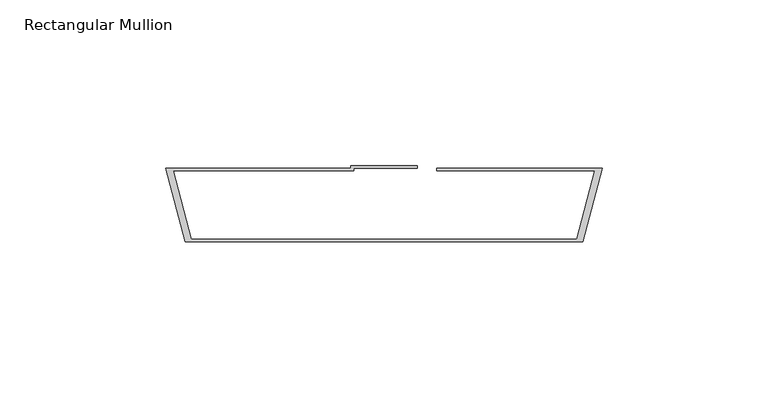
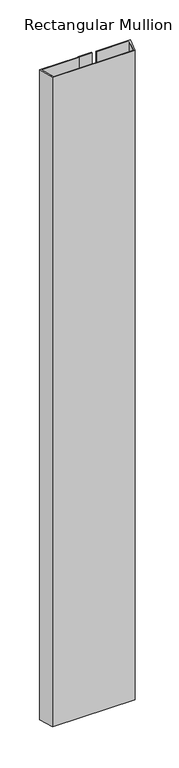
"""IFC4 building model written with IfcOpenShell, lengths in millimetres: member geometry, Rectangular Mullion : TE-H-01_02_Joint flashing i."""

from ifc_helpers import new_model, si_unit, frame, origin, place, context, project, spatial, polyline, outline, extrude, source, transform, mapped, element, save


def rectangular_mullion_4161400c(model_context):
    return source(origin(), model_context, "Body", "SweptSolid", [
        extrude(outline(polyline([(60.0, -23.0), (-60.0, -23.0), (-65.9484721, -0.8), (-10.0, -0.8), (-10.0, 0.0), (10.0, 0.0), (10.0, -0.8), (-9.2, -0.8), (-9.2, -1.6), (-63.6635604, -1.6), (-58.143807, -22.2), (58.143807, -22.2), (63.6635604, -1.6), (15.9484721, -1.6), (15.9484721, -0.8), (65.9484721, -0.8), (60.0, -23.0)])), frame((0.0, 0.0, -1000.0), z_axis=(0.0, 0.0, 1.0), x_axis=(1.0, 0.0, 0.0)), (0.0, 0.0, 1.0), 1000.0),
    ])


if __name__ == "__main__":
    model = new_model("IFC4")
    model_context = context("Model", 3, world=origin())
    ifc_project = project(units=[si_unit("LENGTHUNIT", "METRE", prefix="MILLI")], contexts=[model_context])
    site = spatial("IfcSite", under=ifc_project)
    building = spatial("IfcBuilding", under=site)
    placement = place(None, origin())
    rectangular_mullion_shape = rectangular_mullion_4161400c(model_context)
    element("IfcMember", 1, ObjectType="Rectangular Mullion : TE-H-01_02_Joint flashing i", at=placement, inside=building, context=model_context, shape_type="MappedRepresentation", body=[
        mapped(rectangular_mullion_shape, transform((0.0, 0.0, 0.0), x_axis=(1.0, 0.0, 0.0), y_axis=(0.0, 1.0, 0.0), z_axis=(0.0, 0.0, 1.0))),
    ])
    save(model, "model.ifc")
